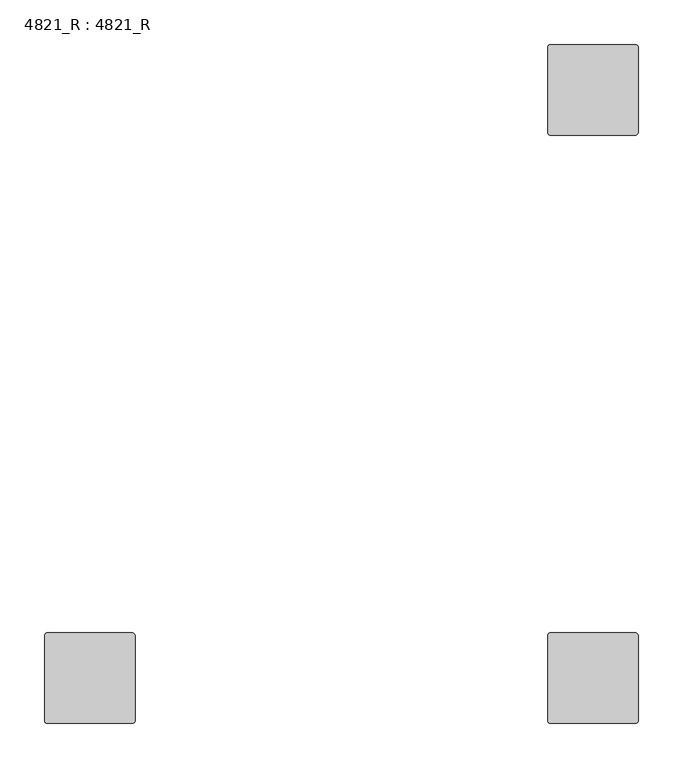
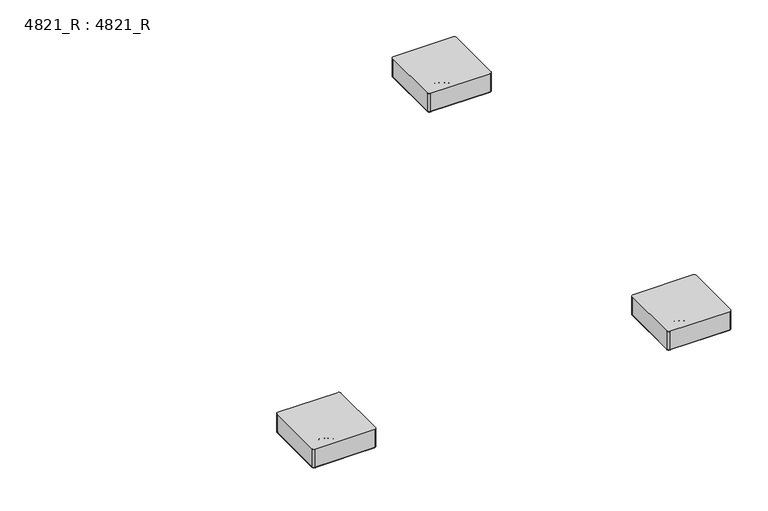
"""IFC4 building model written with IfcOpenShell, lengths in millimetres: furniture geometry, 4821_R : 4821_R."""

from ifc_helpers import new_model, si_unit, point, frame, frame_2d, origin, place, context, project, spatial, polyline, circle_curve, ellipse_curve, trimmed, segment, composite_curve, outline, extrude, source, transform, mapped, element, save
from ifc_brep_helpers import plane_surface, cylinder_surface, revolved_surface, advanced_brep


def furniture_4821_r_4821_r_739098f7(model_context):
    return source(origin(), model_context, "Body", "SolidModel", [
        advanced_brep(
        [(-625.475, -698.5, 41.5925), (-720.725, -698.5, 41.5925), (-723.9, -701.675, 41.5925), (-723.9, -796.925, 41.5925), (-720.725, -800.1, 41.5925), (-625.475, -800.1, 41.5925), (-622.3, -796.925, 41.5925), (-622.3, -701.675, 41.5925), (-722.63, -701.675, 11.1125), (-720.725, -699.77, 11.1125), (-625.475, -699.77, 11.1125), (-623.57, -701.675, 11.1125), (-623.57, -796.925, 11.1125), (-625.475, -798.83, 11.1125), (-720.725, -798.83, 11.1125), (-722.63, -796.925, 11.1125), (-625.475, -698.5, 11.1125), (-720.725, -698.5, 11.1125), (-723.9, -701.675, 11.1125), (-723.9, -796.925, 11.1125), (-720.725, -800.1, 11.1125), (-625.475, -800.1, 11.1125), (-622.3, -796.925, 11.1125), (-622.3, -701.675, 11.1125), (-720.725, -699.77, 9.8425), (-722.63, -701.675, 9.8425), (-625.475, -699.77, 9.8425), (-623.57, -701.675, 9.8425), (-623.57, -796.925, 9.8425), (-625.475, -798.83, 9.8425), (-720.725, -798.83, 9.8425), (-722.63, -796.925, 9.8425)],
        [
            (0, 1),
            (1, 2, circle_curve(frame((-720.725, -701.675, 41.5925), z_axis=(0.0, 0.0, 1.0), x_axis=(1.0, 0.0, 0.0)), 3.175)),
            (2, 3),
            (3, 4, circle_curve(frame((-720.725, -796.925, 41.5925), z_axis=(0.0, 0.0, 1.0), x_axis=(1.0, 0.0, 0.0)), 3.175)),
            (4, 5),
            (5, 6, circle_curve(frame((-625.475, -796.925, 41.5925), z_axis=(0.0, 0.0, 1.0), x_axis=(1.0, 0.0, 0.0)), 3.175)),
            (6, 7),
            (7, 0, circle_curve(frame((-625.475, -701.675, 41.5925), z_axis=(0.0, 0.0, 1.0), x_axis=(1.0, 0.0, 0.0)), 3.175)),
            (8, 9, circle_curve(frame((-720.725, -701.675, 11.1125), z_axis=(0.0, 0.0, -1.0), x_axis=(-1.0, 0.0, 0.0)), 1.905)),
            (9, 10),
            (10, 11, circle_curve(frame((-625.475, -701.675, 11.1125), z_axis=(0.0, 0.0, -1.0), x_axis=(0.0, 1.0, 0.0)), 1.905)),
            (11, 12),
            (12, 13, circle_curve(frame((-625.475, -796.925, 11.1125), z_axis=(0.0, 0.0, -1.0), x_axis=(1.0, 0.0, 0.0)), 1.905)),
            (13, 14),
            (14, 15, circle_curve(frame((-720.725, -796.925, 11.1125), z_axis=(0.0, 0.0, -1.0), x_axis=(0.0, -1.0, 0.0)), 1.905)),
            (15, 8),
            (0, 16),
            (16, 17),
            (17, 1),
            (17, 18, circle_curve(frame((-720.725, -701.675, 11.1125), z_axis=(0.0, 0.0, 1.0), x_axis=(1.0, 0.0, 0.0)), 3.175)),
            (18, 2),
            (18, 19),
            (19, 3),
            (19, 20, circle_curve(frame((-720.725, -796.925, 11.1125), z_axis=(0.0, 0.0, 1.0), x_axis=(1.0, 0.0, 0.0)), 3.175)),
            (20, 4),
            (20, 21),
            (21, 5),
            (21, 22, circle_curve(frame((-625.475, -796.925, 11.1125), z_axis=(0.0, 0.0, 1.0), x_axis=(1.0, 0.0, 0.0)), 3.175)),
            (22, 6),
            (22, 23),
            (23, 7),
            (23, 16, circle_curve(frame((-625.475, -701.675, 11.1125), z_axis=(0.0, 0.0, 1.0), x_axis=(1.0, 0.0, 0.0)), 3.175)),
            (24, 25, circle_curve(frame((-720.725, -701.675, 9.8425), z_axis=(0.0, 0.0, 1.0), x_axis=(-1.0, 0.0, 0.0)), 1.905)),
            (25, 18, circle_curve(frame((-722.63, -701.675, 11.1125), z_axis=(0.0, 1.0, 0.0), x_axis=(1.0, 0.0, 0.0)), 1.27)),
            (17, 24, circle_curve(frame((-720.725, -699.77, 11.1125), z_axis=(-1.0, 0.0, 0.0), x_axis=(0.0, -1.0, 0.0)), 1.27)),
            (16, 26, circle_curve(frame((-625.475, -699.77, 11.1125), z_axis=(-1.0, 0.0, 0.0), x_axis=(0.0, -1.0, 0.0)), 1.27)),
            (26, 24),
            (23, 27, circle_curve(frame((-623.57, -701.675, 11.1125), z_axis=(0.0, 1.0, 0.0), x_axis=(-1.0, 0.0, 0.0)), 1.27)),
            (27, 26, circle_curve(frame((-625.475, -701.675, 9.8425), z_axis=(0.0, 0.0, 1.0), x_axis=(0.0, 1.0, 0.0)), 1.905)),
            (22, 28, circle_curve(frame((-623.57, -796.925, 11.1125), z_axis=(0.0, 1.0, 0.0), x_axis=(-1.0, 0.0, 0.0)), 1.27)),
            (28, 27),
            (21, 29, circle_curve(frame((-625.475, -798.83, 11.1125), z_axis=(1.0, 0.0, 0.0), x_axis=(0.0, 1.0, 0.0)), 1.27)),
            (29, 28, circle_curve(frame((-625.475, -796.925, 9.8425), z_axis=(0.0, 0.0, 1.0), x_axis=(1.0, 0.0, 0.0)), 1.905)),
            (20, 30, circle_curve(frame((-720.725, -798.83, 11.1125), z_axis=(1.0, 0.0, 0.0), x_axis=(0.0, 1.0, 0.0)), 1.27)),
            (30, 29),
            (19, 31, circle_curve(frame((-722.63, -796.925, 11.1125), z_axis=(0.0, -1.0, 0.0), x_axis=(1.0, 0.0, 0.0)), 1.27)),
            (31, 30, circle_curve(frame((-720.725, -796.925, 9.8425), z_axis=(0.0, 0.0, 1.0), x_axis=(0.0, -1.0, 0.0)), 1.905)),
            (25, 31),
            (24, 9),
            (8, 25),
            (26, 10),
            (27, 11),
            (28, 12),
            (29, 13),
            (30, 14),
            (31, 15),
        ],
        [
            plane_surface(frame((-720.725, -698.5, 41.5925), z_axis=(0.0, 0.0, 1.0), x_axis=(-1.0, 0.0, 0.0))),
            plane_surface(frame((-720.725, -698.5, 11.1125), z_axis=(0.0, 0.0, -1.0), x_axis=(1.0, 0.0, 0.0))),
            plane_surface(frame((-625.475, -698.5, 41.5925), z_axis=(0.0, 1.0, 0.0), x_axis=(0.0, 0.0, -1.0))),
            cylinder_surface(frame((-720.725, -701.675, 11.1125), z_axis=(0.0, 0.0, 1.0), x_axis=(1.0, 0.0, 0.0)), 3.175),
            plane_surface(frame((-723.9, -701.675, 41.5925), z_axis=(-1.0, 0.0, 0.0), x_axis=(0.0, 0.0, -1.0))),
            cylinder_surface(frame((-720.725, -796.925, 11.1125), z_axis=(0.0, 0.0, 1.0), x_axis=(1.0, 0.0, 0.0)), 3.175),
            plane_surface(frame((-720.725, -800.1, 41.5925), z_axis=(0.0, -1.0, 0.0), x_axis=(0.0, 0.0, -1.0))),
            cylinder_surface(frame((-625.475, -796.925, 11.1125), z_axis=(0.0, 0.0, 1.0), x_axis=(1.0, 0.0, 0.0)), 3.175),
            plane_surface(frame((-622.3, -796.925, 41.5925), z_axis=(1.0, 0.0, 0.0), x_axis=(0.0, 0.0, -1.0))),
            cylinder_surface(frame((-625.475, -701.675, 11.1125), z_axis=(0.0, 0.0, 1.0), x_axis=(1.0, 0.0, 0.0)), 3.175),
            revolved_surface(trimmed(ellipse_curve(frame((-722.63, -701.675, 11.1125), z_axis=(0.0, -1.0, 0.0), x_axis=(1.0, 0.0, 0.0)), 1.27, 1.27), [point((-723.9, -701.675, 11.1125))], [point((-722.63, -701.675, 9.8425))], True, "CARTESIAN"), (-720.725, -701.675, 11.1125), (0.0, 0.0, -1.0)),
            cylinder_surface(frame((-720.725, -699.77, 11.1125), z_axis=(-1.0, 0.0, 0.0), x_axis=(0.0, -1.0, 0.0)), 1.27),
            revolved_surface(trimmed(ellipse_curve(frame((-625.475, -699.77, 11.1125), z_axis=(-1.0, 0.0, 0.0), x_axis=(0.0, -1.0, 0.0)), 1.27, 1.27), [point((-625.475, -698.5, 11.1125))], [point((-625.475, -699.77, 9.8425))], True, "CARTESIAN"), (-625.475, -701.675, 11.1125), (0.0, 0.0, -1.0)),
            cylinder_surface(frame((-623.57, -701.675, 11.1125), z_axis=(0.0, 1.0, 0.0), x_axis=(-1.0, 0.0, 0.0)), 1.27),
            revolved_surface(trimmed(ellipse_curve(frame((-623.57, -796.925, 11.1125), z_axis=(0.0, 1.0, 0.0), x_axis=(-1.0, 0.0, 0.0)), 1.27, 1.27), [point((-622.3, -796.925, 11.1125))], [point((-623.57, -796.925, 9.8425))], True, "CARTESIAN"), (-625.475, -796.925, 11.1125), (0.0, 0.0, -1.0)),
            cylinder_surface(frame((-625.475, -798.83, 11.1125), z_axis=(1.0, 0.0, 0.0), x_axis=(0.0, 1.0, 0.0)), 1.27),
            revolved_surface(trimmed(ellipse_curve(frame((-720.725, -798.83, 11.1125), z_axis=(1.0, 0.0, 0.0), x_axis=(0.0, 1.0, 0.0)), 1.27, 1.27), [point((-720.725, -800.1, 11.1125))], [point((-720.725, -798.83, 9.8425))], True, "CARTESIAN"), (-720.725, -796.925, 11.1125), (0.0, 0.0, -1.0)),
            cylinder_surface(frame((-722.63, -796.925, 11.1125), z_axis=(0.0, -1.0, 0.0), x_axis=(1.0, 0.0, 0.0)), 1.27),
            revolved_surface(polyline([(-722.63, -701.675, 9.8425), (-722.63, -701.675, 11.1125)]), (-720.725, -701.675, 11.1125), (0.0, 0.0, -1.0)),
            plane_surface(frame((-720.725, -699.77, 9.8425), z_axis=(0.0, -1.0, 0.0), x_axis=(1.0, 0.0, 0.0))),
            revolved_surface(polyline([(-625.475, -699.77, 9.8425), (-625.475, -699.77, 11.1125)]), (-625.475, -701.675, 11.1125), (0.0, 0.0, -1.0)),
            plane_surface(frame((-623.57, -701.675, 9.8425), z_axis=(-1.0, 0.0, 0.0), x_axis=(0.0, -1.0, 0.0))),
            revolved_surface(polyline([(-623.57, -796.925, 9.8425), (-623.57, -796.925, 11.1125)]), (-625.475, -796.925, 11.1125), (0.0, 0.0, -1.0)),
            plane_surface(frame((-625.475, -798.83, 9.8425), z_axis=(0.0, 1.0, 0.0), x_axis=(-1.0, 0.0, 0.0))),
            revolved_surface(polyline([(-720.725, -798.8299999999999, 9.8425), (-720.725, -798.8299999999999, 11.1125)]), (-720.725, -796.925, 11.1125), (0.0, 0.0, -1.0)),
            plane_surface(frame((-722.63, -796.925, 9.8425), z_axis=(1.0, 0.0, 0.0), x_axis=(0.0, 1.0, 0.0))),
        ],
        [
            (0, [[1, 2, 3, 4, 5, 6, 7, 8]]),
            (1, [[9, 10, 11, 12, 13, 14, 15, 16]]),
            (2, [[-1, 17, 18, 19]]),
            (3, [[-2, -19, 20, 21]]),
            (4, [[-3, -21, 22, 23]]),
            (5, [[-4, -23, 24, 25]]),
            (6, [[-5, -25, 26, 27]]),
            (7, [[-6, -27, 28, 29]]),
            (8, [[-7, -29, 30, 31]]),
            (9, [[-8, -31, 32, -17]]),
            (10, [[33, 34, -20, 35]]),
            (11, [[-35, -18, 36, 37]]),
            (12, [[-36, -32, 38, 39]]),
            (13, [[-38, -30, 40, 41]]),
            (14, [[-40, -28, 42, 43]]),
            (15, [[-42, -26, 44, 45]]),
            (16, [[-44, -24, 46, 47]]),
            (17, [[-34, 48, -46, -22]]),
            (18, [[-33, 49, -9, 50]]),
            (19, [[-37, 51, -10, -49]]),
            (20, [[-39, 52, -11, -51]]),
            (21, [[-41, 53, -12, -52]]),
            (22, [[-43, 54, -13, -53]]),
            (23, [[-45, 55, -14, -54]]),
            (24, [[-47, 56, -15, -55]]),
            (25, [[-48, -50, -16, -56]]),
        ],
    ),
        extrude(outline(composite_curve([segment(trimmed(circle_curve(frame_2d((-720.725, -796.925)), 1.905), [point((-720.725, -798.83))], [point((-722.63, -796.925))], False, "CARTESIAN"), True, "CONTINUOUS"), segment(polyline([(-722.63, -796.925), (-722.63, -701.675)]), True, "CONTINUOUS"), segment(trimmed(circle_curve(frame_2d((-720.725, -701.675)), 1.905), [point((-722.63, -701.675))], [point((-720.725, -699.77))], False, "CARTESIAN"), True, "CONTINUOUS"), segment(polyline([(-720.725, -699.77), (-625.475, -699.77)]), True, "CONTINUOUS"), segment(trimmed(circle_curve(frame_2d((-625.475, -701.675)), 1.905), [point((-625.475, -699.77))], [point((-623.57, -701.675))], False, "CARTESIAN"), True, "CONTINUOUS"), segment(polyline([(-623.57, -701.675), (-623.57, -796.925)]), True, "CONTINUOUS"), segment(trimmed(circle_curve(frame_2d((-625.475, -796.925)), 1.905), [point((-623.57, -796.925))], [point((-625.475, -798.83))], False, "CARTESIAN"), True, "CONTINUOUS"), segment(polyline([(-625.475, -798.83), (-720.725, -798.83)]), True, "CONTINUOUS")], self_intersect=False)), frame((0.0, 0.0, 9.8425), z_axis=(0.0, 0.0, 1.0), x_axis=(1.0, 0.0, 0.0)), (0.0, 0.0, 1.0), 1.27),
        advanced_brep(
        [(-683.2521334, -749.3, 0.0), (-662.9478666, -749.3, 0.0), (-673.1, -749.3, 0.0), (-683.5775, -749.3, 5.08), (-662.6225, -749.3, 5.08), (-683.5775, -749.3, 9.0481974), (-662.6225, -749.3, 9.0481974), (-682.7831974, -749.3, 9.8425), (-663.4168026, -749.3, 9.8425), (-673.1, -749.3, 9.8425)],
        [
            (0, 1, circle_curve(frame((-673.1, -749.3, 0.0), z_axis=(0.0, 0.0, -1.0), x_axis=(1.0, 0.0, 0.0)), 10.1521334)),
            (1, 2),
            (2, 0),
            (1, 0, circle_curve(frame((-673.1, -749.3, 0.0), z_axis=(0.0, 0.0, -1.0), x_axis=(1.0, 0.0, 0.0)), 10.1521334)),
            (3, 4, circle_curve(frame((-673.1, -749.3, 5.08), z_axis=(0.0, 0.0, -1.0), x_axis=(1.0, 0.0, 0.0)), 10.4775)),
            (4, 1, circle_curve(frame((-662.9478666, -749.3, 2.5504196), z_axis=(0.0, 1.0, 0.0), x_axis=(1.0, 0.0, 0.0)), 2.5504196)),
            (0, 3, circle_curve(frame((-683.2521334, -749.3, 2.5504196), z_axis=(0.0, 1.0, 0.0), x_axis=(-1.0, 0.0, 0.0)), 2.5504196)),
            (4, 3, circle_curve(frame((-673.1, -749.3, 5.08), z_axis=(0.0, 0.0, -1.0), x_axis=(1.0, 0.0, 0.0)), 10.4775)),
            (5, 6, circle_curve(frame((-673.1, -749.3, 9.0481974), z_axis=(0.0, 0.0, -1.0), x_axis=(1.0, 0.0, 0.0)), 10.4775)),
            (6, 4),
            (3, 5),
            (6, 5, circle_curve(frame((-673.1, -749.3, 9.0481974), z_axis=(0.0, 0.0, -1.0), x_axis=(1.0, 0.0, 0.0)), 10.4775)),
            (7, 8, circle_curve(frame((-673.1, -749.3, 9.8425), z_axis=(0.0, 0.0, -1.0), x_axis=(1.0, 0.0, 0.0)), 9.6831974)),
            (8, 6, circle_curve(frame((-663.4168026, -749.3, 9.0481974), z_axis=(0.0, 1.0, 0.0), x_axis=(1.0, 0.0, 0.0)), 0.7943026)),
            (5, 7, circle_curve(frame((-682.7831974, -749.3, 9.0481974), z_axis=(0.0, 1.0, 0.0), x_axis=(-1.0, 0.0, 0.0)), 0.7943026)),
            (8, 7, circle_curve(frame((-673.1, -749.3, 9.8425), z_axis=(0.0, 0.0, -1.0), x_axis=(1.0, 0.0, 0.0)), 9.6831974)),
            (9, 8),
            (7, 9),
        ],
        [
            plane_surface(frame((-673.1, -749.3, 0.0), z_axis=(0.0, 0.0, -1.0), x_axis=(1.0, 0.0, 0.0))),
            revolved_surface(trimmed(ellipse_curve(frame((-662.9478666, -749.3, 2.5504196), z_axis=(0.0, -1.0, 0.0), x_axis=(1.0, 0.0, 0.0)), 2.5504196, 2.5504196), [point((-662.9478666, -749.3, 0.0))], [point((-662.6225, -749.3, 5.08))], True, "CARTESIAN"), (-673.1, -749.3, 9.8425), (0.0, 0.0, 1.0)),
            cylinder_surface(frame((-673.1, -749.3, 9.8425), z_axis=(0.0, 0.0, 1.0), x_axis=(1.0, 0.0, 0.0)), 10.4775),
            revolved_surface(trimmed(ellipse_curve(frame((-663.4168026, -749.3, 9.0481974), z_axis=(0.0, -1.0, 0.0), x_axis=(1.0, 0.0, 0.0)), 0.7943026, 0.7943026), [point((-662.6225, -749.3, 9.0481974))], [point((-663.4168026, -749.3, 9.8425))], True, "CARTESIAN"), (-673.1, -749.3, 9.8425), (0.0, 0.0, 1.0)),
            plane_surface(frame((-673.1, -749.3, 9.8425), z_axis=(0.0, 0.0, 1.0), x_axis=(1.0, 0.0, 0.0))),
        ],
        [
            (0, [[1, 2, 3]]),
            (0, [[4, -3, -2]]),
            (1, [[5, 6, -1, 7]]),
            (1, [[8, -7, -4, -6]]),
            (2, [[9, 10, -5, 11]]),
            (2, [[12, -11, -8, -10]]),
            (3, [[13, 14, -9, 15]]),
            (3, [[16, -15, -12, -14]]),
            (4, [[17, -13, 18]]),
            (4, [[-18, -16, -17]]),
        ],
    ),
        advanced_brep(
        [(-60.325, -698.5, 41.5925), (-155.575, -698.5, 41.5925), (-158.75, -701.675, 41.5925), (-158.75, -796.925, 41.5925), (-155.575, -800.1, 41.5925), (-60.325, -800.1, 41.5925), (-57.15, -796.925, 41.5925), (-57.15, -701.675, 41.5925), (-157.48, -701.675, 11.1125), (-155.575, -699.77, 11.1125), (-60.325, -699.77, 11.1125), (-58.42, -701.675, 11.1125), (-58.42, -796.925, 11.1125), (-60.325, -798.83, 11.1125), (-155.575, -798.83, 11.1125), (-157.48, -796.925, 11.1125), (-60.325, -698.5, 11.1125), (-155.575, -698.5, 11.1125), (-158.75, -701.675, 11.1125), (-158.75, -796.925, 11.1125), (-155.575, -800.1, 11.1125), (-60.325, -800.1, 11.1125), (-57.15, -796.925, 11.1125), (-57.15, -701.675, 11.1125), (-155.575, -699.77, 9.8425), (-157.48, -701.675, 9.8425), (-60.325, -699.77, 9.8425), (-58.42, -701.675, 9.8425), (-58.42, -796.925, 9.8425), (-60.325, -798.83, 9.8425), (-155.575, -798.83, 9.8425), (-157.48, -796.925, 9.8425)],
        [
            (0, 1),
            (1, 2, circle_curve(frame((-155.575, -701.675, 41.5925), z_axis=(0.0, 0.0, 1.0), x_axis=(1.0, 0.0, 0.0)), 3.175)),
            (2, 3),
            (3, 4, circle_curve(frame((-155.575, -796.925, 41.5925), z_axis=(0.0, 0.0, 1.0), x_axis=(1.0, 0.0, 0.0)), 3.175)),
            (4, 5),
            (5, 6, circle_curve(frame((-60.325, -796.925, 41.5925), z_axis=(0.0, 0.0, 1.0), x_axis=(1.0, 0.0, 0.0)), 3.175)),
            (6, 7),
            (7, 0, circle_curve(frame((-60.325, -701.675, 41.5925), z_axis=(0.0, 0.0, 1.0), x_axis=(1.0, 0.0, 0.0)), 3.175)),
            (8, 9, circle_curve(frame((-155.575, -701.675, 11.1125), z_axis=(0.0, 0.0, -1.0), x_axis=(-1.0, 0.0, 0.0)), 1.905)),
            (9, 10),
            (10, 11, circle_curve(frame((-60.325, -701.675, 11.1125), z_axis=(0.0, 0.0, -1.0), x_axis=(0.0, 1.0, 0.0)), 1.905)),
            (11, 12),
            (12, 13, circle_curve(frame((-60.325, -796.925, 11.1125), z_axis=(0.0, 0.0, -1.0), x_axis=(1.0, 0.0, 0.0)), 1.905)),
            (13, 14),
            (14, 15, circle_curve(frame((-155.575, -796.925, 11.1125), z_axis=(0.0, 0.0, -1.0), x_axis=(0.0, -1.0, 0.0)), 1.905)),
            (15, 8),
            (0, 16),
            (16, 17),
            (17, 1),
            (17, 18, circle_curve(frame((-155.575, -701.675, 11.1125), z_axis=(0.0, 0.0, 1.0), x_axis=(1.0, 0.0, 0.0)), 3.175)),
            (18, 2),
            (18, 19),
            (19, 3),
            (19, 20, circle_curve(frame((-155.575, -796.925, 11.1125), z_axis=(0.0, 0.0, 1.0), x_axis=(1.0, 0.0, 0.0)), 3.175)),
            (20, 4),
            (20, 21),
            (21, 5),
            (21, 22, circle_curve(frame((-60.325, -796.925, 11.1125), z_axis=(0.0, 0.0, 1.0), x_axis=(1.0, 0.0, 0.0)), 3.175)),
            (22, 6),
            (22, 23),
            (23, 7),
            (23, 16, circle_curve(frame((-60.325, -701.675, 11.1125), z_axis=(0.0, 0.0, 1.0), x_axis=(1.0, 0.0, 0.0)), 3.175)),
            (24, 25, circle_curve(frame((-155.575, -701.675, 9.8425), z_axis=(0.0, 0.0, 1.0), x_axis=(-1.0, 0.0, 0.0)), 1.905)),
            (25, 18, circle_curve(frame((-157.48, -701.675, 11.1125), z_axis=(0.0, 1.0, 0.0), x_axis=(1.0, 0.0, 0.0)), 1.27)),
            (17, 24, circle_curve(frame((-155.575, -699.77, 11.1125), z_axis=(-1.0, 0.0, 0.0), x_axis=(0.0, -1.0, 0.0)), 1.27)),
            (16, 26, circle_curve(frame((-60.325, -699.77, 11.1125), z_axis=(-1.0, 0.0, 0.0), x_axis=(0.0, -1.0, 0.0)), 1.27)),
            (26, 24),
            (23, 27, circle_curve(frame((-58.42, -701.675, 11.1125), z_axis=(0.0, 1.0, 0.0), x_axis=(-1.0, 0.0, 0.0)), 1.27)),
            (27, 26, circle_curve(frame((-60.325, -701.675, 9.8425), z_axis=(0.0, 0.0, 1.0), x_axis=(0.0, 1.0, 0.0)), 1.905)),
            (22, 28, circle_curve(frame((-58.42, -796.925, 11.1125), z_axis=(0.0, 1.0, 0.0), x_axis=(-1.0, 0.0, 0.0)), 1.27)),
            (28, 27),
            (21, 29, circle_curve(frame((-60.325, -798.83, 11.1125), z_axis=(1.0, 0.0, 0.0), x_axis=(0.0, 1.0, 0.0)), 1.27)),
            (29, 28, circle_curve(frame((-60.325, -796.925, 9.8425), z_axis=(0.0, 0.0, 1.0), x_axis=(1.0, 0.0, 0.0)), 1.905)),
            (20, 30, circle_curve(frame((-155.575, -798.83, 11.1125), z_axis=(1.0, 0.0, 0.0), x_axis=(0.0, 1.0, 0.0)), 1.27)),
            (30, 29),
            (19, 31, circle_curve(frame((-157.48, -796.925, 11.1125), z_axis=(0.0, -1.0, 0.0), x_axis=(1.0, 0.0, 0.0)), 1.27)),
            (31, 30, circle_curve(frame((-155.575, -796.925, 9.8425), z_axis=(0.0, 0.0, 1.0), x_axis=(0.0, -1.0, 0.0)), 1.905)),
            (25, 31),
            (24, 9),
            (8, 25),
            (26, 10),
            (27, 11),
            (28, 12),
            (29, 13),
            (30, 14),
            (31, 15),
        ],
        [
            plane_surface(frame((-155.575, -698.5, 41.5925), z_axis=(0.0, 0.0, 1.0), x_axis=(-1.0, 0.0, 0.0))),
            plane_surface(frame((-155.575, -698.5, 11.1125), z_axis=(0.0, 0.0, -1.0), x_axis=(1.0, 0.0, 0.0))),
            plane_surface(frame((-60.325, -698.5, 41.5925), z_axis=(0.0, 1.0, 0.0), x_axis=(0.0, 0.0, -1.0))),
            cylinder_surface(frame((-155.575, -701.675, 11.1125), z_axis=(0.0, 0.0, 1.0), x_axis=(1.0, 0.0, 0.0)), 3.175),
            plane_surface(frame((-158.75, -701.675, 41.5925), z_axis=(-1.0, 0.0, 0.0), x_axis=(0.0, 0.0, -1.0))),
            cylinder_surface(frame((-155.575, -796.925, 11.1125), z_axis=(0.0, 0.0, 1.0), x_axis=(1.0, 0.0, 0.0)), 3.175),
            plane_surface(frame((-155.575, -800.1, 41.5925), z_axis=(0.0, -1.0, 0.0), x_axis=(0.0, 0.0, -1.0))),
            cylinder_surface(frame((-60.325, -796.925, 11.1125), z_axis=(0.0, 0.0, 1.0), x_axis=(1.0, 0.0, 0.0)), 3.175),
            plane_surface(frame((-57.15, -796.925, 41.5925), z_axis=(1.0, 0.0, 0.0), x_axis=(0.0, 0.0, -1.0))),
            cylinder_surface(frame((-60.325, -701.675, 11.1125), z_axis=(0.0, 0.0, 1.0), x_axis=(1.0, 0.0, 0.0)), 3.175),
            revolved_surface(trimmed(ellipse_curve(frame((-157.48, -701.675, 11.1125), z_axis=(0.0, -1.0, 0.0), x_axis=(1.0, 0.0, 0.0)), 1.27, 1.27), [point((-158.75, -701.675, 11.1125))], [point((-157.48, -701.675, 9.8425))], True, "CARTESIAN"), (-155.575, -701.675, 11.1125), (0.0, 0.0, -1.0)),
            cylinder_surface(frame((-155.575, -699.77, 11.1125), z_axis=(-1.0, 0.0, 0.0), x_axis=(0.0, -1.0, 0.0)), 1.27),
            revolved_surface(trimmed(ellipse_curve(frame((-60.325, -699.77, 11.1125), z_axis=(-1.0, 0.0, 0.0), x_axis=(0.0, -1.0, 0.0)), 1.27, 1.27), [point((-60.325, -698.5, 11.1125))], [point((-60.325, -699.77, 9.8425))], True, "CARTESIAN"), (-60.325, -701.675, 11.1125), (0.0, 0.0, -1.0)),
            cylinder_surface(frame((-58.42, -701.675, 11.1125), z_axis=(0.0, 1.0, 0.0), x_axis=(-1.0, 0.0, 0.0)), 1.27),
            revolved_surface(trimmed(ellipse_curve(frame((-58.42, -796.925, 11.1125), z_axis=(0.0, 1.0, 0.0), x_axis=(-1.0, 0.0, 0.0)), 1.27, 1.27), [point((-57.15, -796.925, 11.1125))], [point((-58.42, -796.925, 9.8425))], True, "CARTESIAN"), (-60.325, -796.925, 11.1125), (0.0, 0.0, -1.0)),
            cylinder_surface(frame((-60.325, -798.83, 11.1125), z_axis=(1.0, 0.0, 0.0), x_axis=(0.0, 1.0, 0.0)), 1.27),
            revolved_surface(trimmed(ellipse_curve(frame((-155.575, -798.83, 11.1125), z_axis=(1.0, 0.0, 0.0), x_axis=(0.0, 1.0, 0.0)), 1.27, 1.27), [point((-155.575, -800.1, 11.1125))], [point((-155.575, -798.83, 9.8425))], True, "CARTESIAN"), (-155.575, -796.925, 11.1125), (0.0, 0.0, -1.0)),
            cylinder_surface(frame((-157.48, -796.925, 11.1125), z_axis=(0.0, -1.0, 0.0), x_axis=(1.0, 0.0, 0.0)), 1.27),
            revolved_surface(polyline([(-157.48, -701.675, 9.8425), (-157.48, -701.675, 11.1125)]), (-155.575, -701.675, 11.1125), (0.0, 0.0, -1.0)),
            plane_surface(frame((-155.575, -699.77, 9.8425), z_axis=(0.0, -1.0, 0.0), x_axis=(1.0, 0.0, 0.0))),
            revolved_surface(polyline([(-60.325, -699.77, 9.8425), (-60.325, -699.77, 11.1125)]), (-60.325, -701.675, 11.1125), (0.0, 0.0, -1.0)),
            plane_surface(frame((-58.42, -701.675, 9.8425), z_axis=(-1.0, 0.0, 0.0), x_axis=(0.0, -1.0, 0.0))),
            revolved_surface(polyline([(-58.42, -796.925, 9.8425), (-58.42, -796.925, 11.1125)]), (-60.325, -796.925, 11.1125), (0.0, 0.0, -1.0)),
            plane_surface(frame((-60.325, -798.83, 9.8425), z_axis=(0.0, 1.0, 0.0), x_axis=(-1.0, 0.0, 0.0))),
            revolved_surface(polyline([(-155.575, -798.8299999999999, 9.8425), (-155.575, -798.8299999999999, 11.1125)]), (-155.575, -796.925, 11.1125), (0.0, 0.0, -1.0)),
            plane_surface(frame((-157.48, -796.925, 9.8425), z_axis=(1.0, 0.0, 0.0), x_axis=(0.0, 1.0, 0.0))),
        ],
        [
            (0, [[1, 2, 3, 4, 5, 6, 7, 8]]),
            (1, [[9, 10, 11, 12, 13, 14, 15, 16]]),
            (2, [[-1, 17, 18, 19]]),
            (3, [[-2, -19, 20, 21]]),
            (4, [[-3, -21, 22, 23]]),
            (5, [[-4, -23, 24, 25]]),
            (6, [[-5, -25, 26, 27]]),
            (7, [[-6, -27, 28, 29]]),
            (8, [[-7, -29, 30, 31]]),
            (9, [[-8, -31, 32, -17]]),
            (10, [[33, 34, -20, 35]]),
            (11, [[-35, -18, 36, 37]]),
            (12, [[-36, -32, 38, 39]]),
            (13, [[-38, -30, 40, 41]]),
            (14, [[-40, -28, 42, 43]]),
            (15, [[-42, -26, 44, 45]]),
            (16, [[-44, -24, 46, 47]]),
            (17, [[-34, 48, -46, -22]]),
            (18, [[-33, 49, -9, 50]]),
            (19, [[-37, 51, -10, -49]]),
            (20, [[-39, 52, -11, -51]]),
            (21, [[-41, 53, -12, -52]]),
            (22, [[-43, 54, -13, -53]]),
            (23, [[-45, 55, -14, -54]]),
            (24, [[-47, 56, -15, -55]]),
            (25, [[-48, -50, -16, -56]]),
        ],
    ),
        extrude(outline(composite_curve([segment(trimmed(circle_curve(frame_2d((-155.575, -796.925)), 1.905), [point((-155.575, -798.83))], [point((-157.48, -796.925))], False, "CARTESIAN"), True, "CONTINUOUS"), segment(polyline([(-157.48, -796.925), (-157.48, -701.675)]), True, "CONTINUOUS"), segment(trimmed(circle_curve(frame_2d((-155.575, -701.675)), 1.905), [point((-157.48, -701.675))], [point((-155.575, -699.77))], False, "CARTESIAN"), True, "CONTINUOUS"), segment(polyline([(-155.575, -699.77), (-60.325, -699.77)]), True, "CONTINUOUS"), segment(trimmed(circle_curve(frame_2d((-60.325, -701.675)), 1.905), [point((-60.325, -699.77))], [point((-58.42, -701.675))], False, "CARTESIAN"), True, "CONTINUOUS"), segment(polyline([(-58.42, -701.675), (-58.42, -796.925)]), True, "CONTINUOUS"), segment(trimmed(circle_curve(frame_2d((-60.325, -796.925)), 1.905), [point((-58.42, -796.925))], [point((-60.325, -798.83))], False, "CARTESIAN"), True, "CONTINUOUS"), segment(polyline([(-60.325, -798.83), (-155.575, -798.83)]), True, "CONTINUOUS")], self_intersect=False)), frame((0.0, 0.0, 9.8425), z_axis=(0.0, 0.0, 1.0), x_axis=(1.0, 0.0, 0.0)), (0.0, 0.0, 1.0), 1.27),
        advanced_brep(
        [(-118.1021334, -749.3, 0.0), (-97.7978666, -749.3, 0.0), (-107.95, -749.3, 0.0), (-118.4275, -749.3, 5.08), (-97.4725, -749.3, 5.08), (-118.4275, -749.3, 9.0481974), (-97.4725, -749.3, 9.0481974), (-117.6331974, -749.3, 9.8425), (-98.2668026, -749.3, 9.8425), (-107.95, -749.3, 9.8425)],
        [
            (0, 1, circle_curve(frame((-107.95, -749.3, 0.0), z_axis=(0.0, 0.0, -1.0), x_axis=(1.0, 0.0, 0.0)), 10.1521334)),
            (1, 2),
            (2, 0),
            (1, 0, circle_curve(frame((-107.95, -749.3, 0.0), z_axis=(0.0, 0.0, -1.0), x_axis=(1.0, 0.0, 0.0)), 10.1521334)),
            (3, 4, circle_curve(frame((-107.95, -749.3, 5.08), z_axis=(0.0, 0.0, -1.0), x_axis=(1.0, 0.0, 0.0)), 10.4775)),
            (4, 1, circle_curve(frame((-97.7978666, -749.3, 2.5504196), z_axis=(0.0, 1.0, 0.0), x_axis=(1.0, 0.0, 0.0)), 2.5504196)),
            (0, 3, circle_curve(frame((-118.1021334, -749.3, 2.5504196), z_axis=(0.0, 1.0, 0.0), x_axis=(-1.0, 0.0, 0.0)), 2.5504196)),
            (4, 3, circle_curve(frame((-107.95, -749.3, 5.08), z_axis=(0.0, 0.0, -1.0), x_axis=(1.0, 0.0, 0.0)), 10.4775)),
            (5, 6, circle_curve(frame((-107.95, -749.3, 9.0481974), z_axis=(0.0, 0.0, -1.0), x_axis=(1.0, 0.0, 0.0)), 10.4775)),
            (6, 4),
            (3, 5),
            (6, 5, circle_curve(frame((-107.95, -749.3, 9.0481974), z_axis=(0.0, 0.0, -1.0), x_axis=(1.0, 0.0, 0.0)), 10.4775)),
            (7, 8, circle_curve(frame((-107.95, -749.3, 9.8425), z_axis=(0.0, 0.0, -1.0), x_axis=(1.0, 0.0, 0.0)), 9.6831974)),
            (8, 6, circle_curve(frame((-98.2668026, -749.3, 9.0481974), z_axis=(0.0, 1.0, 0.0), x_axis=(1.0, 0.0, 0.0)), 0.7943026)),
            (5, 7, circle_curve(frame((-117.6331974, -749.3, 9.0481974), z_axis=(0.0, 1.0, 0.0), x_axis=(-1.0, 0.0, 0.0)), 0.7943026)),
            (8, 7, circle_curve(frame((-107.95, -749.3, 9.8425), z_axis=(0.0, 0.0, -1.0), x_axis=(1.0, 0.0, 0.0)), 9.6831974)),
            (9, 8),
            (7, 9),
        ],
        [
            plane_surface(frame((-107.95, -749.3, 0.0), z_axis=(0.0, 0.0, -1.0), x_axis=(1.0, 0.0, 0.0))),
            revolved_surface(trimmed(ellipse_curve(frame((-97.7978666, -749.3, 2.5504196), z_axis=(0.0, -1.0, 0.0), x_axis=(1.0, 0.0, 0.0)), 2.5504196, 2.5504196), [point((-97.7978666, -749.3, 0.0))], [point((-97.4725, -749.3, 5.08))], True, "CARTESIAN"), (-107.95, -749.3, 9.8425), (0.0, 0.0, 1.0)),
            cylinder_surface(frame((-107.95, -749.3, 9.8425), z_axis=(0.0, 0.0, 1.0), x_axis=(1.0, 0.0, 0.0)), 10.4775),
            revolved_surface(trimmed(ellipse_curve(frame((-98.2668026, -749.3, 9.0481974), z_axis=(0.0, -1.0, 0.0), x_axis=(1.0, 0.0, 0.0)), 0.7943026, 0.7943026), [point((-97.4725, -749.3, 9.0481974))], [point((-98.2668026, -749.3, 9.8425))], True, "CARTESIAN"), (-107.95, -749.3, 9.8425), (0.0, 0.0, 1.0)),
            plane_surface(frame((-107.95, -749.3, 9.8425), z_axis=(0.0, 0.0, 1.0), x_axis=(1.0, 0.0, 0.0))),
        ],
        [
            (0, [[1, 2, 3]]),
            (0, [[4, -3, -2]]),
            (1, [[5, 6, -1, 7]]),
            (1, [[8, -7, -4, -6]]),
            (2, [[9, 10, -5, 11]]),
            (2, [[12, -11, -8, -10]]),
            (3, [[13, 14, -9, 15]]),
            (3, [[16, -15, -12, -14]]),
            (4, [[17, -13, 18]]),
            (4, [[-18, -16, -17]]),
        ],
    ),
        advanced_brep(
        [(-60.325, -38.1, 41.5925), (-155.575, -38.1, 41.5925), (-158.75, -41.275, 41.5925), (-158.75, -136.525, 41.5925), (-155.575, -139.7, 41.5925), (-60.325, -139.7, 41.5925), (-57.15, -136.525, 41.5925), (-57.15, -41.275, 41.5925), (-157.48, -41.275, 11.1125), (-155.575, -39.37, 11.1125), (-60.325, -39.37, 11.1125), (-58.42, -41.275, 11.1125), (-58.42, -136.525, 11.1125), (-60.325, -138.43, 11.1125), (-155.575, -138.43, 11.1125), (-157.48, -136.525, 11.1125), (-60.325, -38.1, 11.1125), (-155.575, -38.1, 11.1125), (-158.75, -41.275, 11.1125), (-158.75, -136.525, 11.1125), (-155.575, -139.7, 11.1125), (-60.325, -139.7, 11.1125), (-57.15, -136.525, 11.1125), (-57.15, -41.275, 11.1125), (-155.575, -39.37, 9.8425), (-157.48, -41.275, 9.8425), (-60.325, -39.37, 9.8425), (-58.42, -41.275, 9.8425), (-58.42, -136.525, 9.8425), (-60.325, -138.43, 9.8425), (-155.575, -138.43, 9.8425), (-157.48, -136.525, 9.8425)],
        [
            (0, 1),
            (1, 2, circle_curve(frame((-155.575, -41.275, 41.5925), z_axis=(0.0, 0.0, 1.0), x_axis=(1.0, 0.0, 0.0)), 3.175)),
            (2, 3),
            (3, 4, circle_curve(frame((-155.575, -136.525, 41.5925), z_axis=(0.0, 0.0, 1.0), x_axis=(1.0, 0.0, 0.0)), 3.175)),
            (4, 5),
            (5, 6, circle_curve(frame((-60.325, -136.525, 41.5925), z_axis=(0.0, 0.0, 1.0), x_axis=(1.0, 0.0, 0.0)), 3.175)),
            (6, 7),
            (7, 0, circle_curve(frame((-60.325, -41.275, 41.5925), z_axis=(0.0, 0.0, 1.0), x_axis=(1.0, 0.0, 0.0)), 3.175)),
            (8, 9, circle_curve(frame((-155.575, -41.275, 11.1125), z_axis=(0.0, 0.0, -1.0), x_axis=(-1.0, 0.0, 0.0)), 1.905)),
            (9, 10),
            (10, 11, circle_curve(frame((-60.325, -41.275, 11.1125), z_axis=(0.0, 0.0, -1.0), x_axis=(0.0, 1.0, 0.0)), 1.905)),
            (11, 12),
            (12, 13, circle_curve(frame((-60.325, -136.525, 11.1125), z_axis=(0.0, 0.0, -1.0), x_axis=(1.0, 0.0, 0.0)), 1.905)),
            (13, 14),
            (14, 15, circle_curve(frame((-155.575, -136.525, 11.1125), z_axis=(0.0, 0.0, -1.0), x_axis=(0.0, -1.0, 0.0)), 1.905)),
            (15, 8),
            (0, 16),
            (16, 17),
            (17, 1),
            (17, 18, circle_curve(frame((-155.575, -41.275, 11.1125), z_axis=(0.0, 0.0, 1.0), x_axis=(1.0, 0.0, 0.0)), 3.175)),
            (18, 2),
            (18, 19),
            (19, 3),
            (19, 20, circle_curve(frame((-155.575, -136.525, 11.1125), z_axis=(0.0, 0.0, 1.0), x_axis=(1.0, 0.0, 0.0)), 3.175)),
            (20, 4),
            (20, 21),
            (21, 5),
            (21, 22, circle_curve(frame((-60.325, -136.525, 11.1125), z_axis=(0.0, 0.0, 1.0), x_axis=(1.0, 0.0, 0.0)), 3.175)),
            (22, 6),
            (22, 23),
            (23, 7),
            (23, 16, circle_curve(frame((-60.325, -41.275, 11.1125), z_axis=(0.0, 0.0, 1.0), x_axis=(1.0, 0.0, 0.0)), 3.175)),
            (24, 25, circle_curve(frame((-155.575, -41.275, 9.8425), z_axis=(0.0, 0.0, 1.0), x_axis=(-1.0, 0.0, 0.0)), 1.905)),
            (25, 18, circle_curve(frame((-157.48, -41.275, 11.1125), z_axis=(0.0, 1.0, 0.0), x_axis=(1.0, 0.0, 0.0)), 1.27)),
            (17, 24, circle_curve(frame((-155.575, -39.37, 11.1125), z_axis=(-1.0, 0.0, 0.0), x_axis=(0.0, -1.0, 0.0)), 1.27)),
            (16, 26, circle_curve(frame((-60.325, -39.37, 11.1125), z_axis=(-1.0, 0.0, 0.0), x_axis=(0.0, -1.0, 0.0)), 1.27)),
            (26, 24),
            (23, 27, circle_curve(frame((-58.42, -41.275, 11.1125), z_axis=(0.0, 1.0, 0.0), x_axis=(-1.0, 0.0, 0.0)), 1.27)),
            (27, 26, circle_curve(frame((-60.325, -41.275, 9.8425), z_axis=(0.0, 0.0, 1.0), x_axis=(0.0, 1.0, 0.0)), 1.905)),
            (22, 28, circle_curve(frame((-58.42, -136.525, 11.1125), z_axis=(0.0, 1.0, 0.0), x_axis=(-1.0, 0.0, 0.0)), 1.27)),
            (28, 27),
            (21, 29, circle_curve(frame((-60.325, -138.43, 11.1125), z_axis=(1.0, 0.0, 0.0), x_axis=(0.0, 1.0, 0.0)), 1.27)),
            (29, 28, circle_curve(frame((-60.325, -136.525, 9.8425), z_axis=(0.0, 0.0, 1.0), x_axis=(1.0, 0.0, 0.0)), 1.905)),
            (20, 30, circle_curve(frame((-155.575, -138.43, 11.1125), z_axis=(1.0, 0.0, 0.0), x_axis=(0.0, 1.0, 0.0)), 1.27)),
            (30, 29),
            (19, 31, circle_curve(frame((-157.48, -136.525, 11.1125), z_axis=(0.0, -1.0, 0.0), x_axis=(1.0, 0.0, 0.0)), 1.27)),
            (31, 30, circle_curve(frame((-155.575, -136.525, 9.8425), z_axis=(0.0, 0.0, 1.0), x_axis=(0.0, -1.0, 0.0)), 1.905)),
            (25, 31),
            (24, 9),
            (8, 25),
            (26, 10),
            (27, 11),
            (28, 12),
            (29, 13),
            (30, 14),
            (31, 15),
        ],
        [
            plane_surface(frame((-155.575, -38.1, 41.5925), z_axis=(0.0, 0.0, 1.0), x_axis=(-1.0, 0.0, 0.0))),
            plane_surface(frame((-155.575, -38.1, 11.1125), z_axis=(0.0, 0.0, -1.0), x_axis=(1.0, 0.0, 0.0))),
            plane_surface(frame((-60.325, -38.1, 41.5925), z_axis=(0.0, 1.0, 0.0), x_axis=(0.0, 0.0, -1.0))),
            cylinder_surface(frame((-155.575, -41.275, 11.1125), z_axis=(0.0, 0.0, 1.0), x_axis=(1.0, 0.0, 0.0)), 3.175),
            plane_surface(frame((-158.75, -41.275, 41.5925), z_axis=(-1.0, 0.0, 0.0), x_axis=(0.0, 0.0, -1.0))),
            cylinder_surface(frame((-155.575, -136.525, 11.1125), z_axis=(0.0, 0.0, 1.0), x_axis=(1.0, 0.0, 0.0)), 3.175),
            plane_surface(frame((-155.575, -139.7, 41.5925), z_axis=(0.0, -1.0, 0.0), x_axis=(0.0, 0.0, -1.0))),
            cylinder_surface(frame((-60.325, -136.525, 11.1125), z_axis=(0.0, 0.0, 1.0), x_axis=(1.0, 0.0, 0.0)), 3.175),
            plane_surface(frame((-57.15, -136.525, 41.5925), z_axis=(1.0, 0.0, 0.0), x_axis=(0.0, 0.0, -1.0))),
            cylinder_surface(frame((-60.325, -41.275, 11.1125), z_axis=(0.0, 0.0, 1.0), x_axis=(1.0, 0.0, 0.0)), 3.175),
            revolved_surface(trimmed(ellipse_curve(frame((-157.48, -41.275, 11.1125), z_axis=(0.0, -1.0, 0.0), x_axis=(1.0, 0.0, 0.0)), 1.27, 1.27), [point((-158.75, -41.275, 11.1125))], [point((-157.48, -41.275, 9.8425))], True, "CARTESIAN"), (-155.575, -41.275, 11.1125), (0.0, 0.0, -1.0)),
            cylinder_surface(frame((-155.575, -39.37, 11.1125), z_axis=(-1.0, 0.0, 0.0), x_axis=(0.0, -1.0, 0.0)), 1.27),
            revolved_surface(trimmed(ellipse_curve(frame((-60.325, -39.37, 11.1125), z_axis=(-1.0, 0.0, 0.0), x_axis=(0.0, -1.0, 0.0)), 1.27, 1.27), [point((-60.325, -38.1, 11.1125))], [point((-60.325, -39.37, 9.8425))], True, "CARTESIAN"), (-60.325, -41.275, 11.1125), (0.0, 0.0, -1.0)),
            cylinder_surface(frame((-58.42, -41.275, 11.1125), z_axis=(0.0, 1.0, 0.0), x_axis=(-1.0, 0.0, 0.0)), 1.27),
            revolved_surface(trimmed(ellipse_curve(frame((-58.42, -136.525, 11.1125), z_axis=(0.0, 1.0, 0.0), x_axis=(-1.0, 0.0, 0.0)), 1.27, 1.27), [point((-57.15, -136.525, 11.1125))], [point((-58.42, -136.525, 9.8425))], True, "CARTESIAN"), (-60.325, -136.525, 11.1125), (0.0, 0.0, -1.0)),
            cylinder_surface(frame((-60.325, -138.43, 11.1125), z_axis=(1.0, 0.0, 0.0), x_axis=(0.0, 1.0, 0.0)), 1.27),
            revolved_surface(trimmed(ellipse_curve(frame((-155.575, -138.43, 11.1125), z_axis=(1.0, 0.0, 0.0), x_axis=(0.0, 1.0, 0.0)), 1.27, 1.27), [point((-155.575, -139.7, 11.1125))], [point((-155.575, -138.43, 9.8425))], True, "CARTESIAN"), (-155.575, -136.525, 11.1125), (0.0, 0.0, -1.0)),
            cylinder_surface(frame((-157.48, -136.525, 11.1125), z_axis=(0.0, -1.0, 0.0), x_axis=(1.0, 0.0, 0.0)), 1.27),
            revolved_surface(polyline([(-157.48, -41.275, 9.8425), (-157.48, -41.275, 11.1125)]), (-155.575, -41.275, 11.1125), (0.0, 0.0, -1.0)),
            plane_surface(frame((-155.575, -39.37, 9.8425), z_axis=(0.0, -1.0, 0.0), x_axis=(1.0, 0.0, 0.0))),
            revolved_surface(polyline([(-60.325, -39.37, 9.8425), (-60.325, -39.37, 11.1125)]), (-60.325, -41.275, 11.1125), (0.0, 0.0, -1.0)),
            plane_surface(frame((-58.42, -41.275, 9.8425), z_axis=(-1.0, 0.0, 0.0), x_axis=(0.0, -1.0, 0.0))),
            revolved_surface(polyline([(-58.42, -136.525, 9.8425), (-58.42, -136.525, 11.1125)]), (-60.325, -136.525, 11.1125), (0.0, 0.0, -1.0)),
            plane_surface(frame((-60.325, -138.43, 9.8425), z_axis=(0.0, 1.0, 0.0), x_axis=(-1.0, 0.0, 0.0))),
            revolved_surface(polyline([(-155.575, -138.43, 9.8425), (-155.575, -138.43, 11.1125)]), (-155.575, -136.525, 11.1125), (0.0, 0.0, -1.0)),
            plane_surface(frame((-157.48, -136.525, 9.8425), z_axis=(1.0, 0.0, 0.0), x_axis=(0.0, 1.0, 0.0))),
        ],
        [
            (0, [[1, 2, 3, 4, 5, 6, 7, 8]]),
            (1, [[9, 10, 11, 12, 13, 14, 15, 16]]),
            (2, [[-1, 17, 18, 19]]),
            (3, [[-2, -19, 20, 21]]),
            (4, [[-3, -21, 22, 23]]),
            (5, [[-4, -23, 24, 25]]),
            (6, [[-5, -25, 26, 27]]),
            (7, [[-6, -27, 28, 29]]),
            (8, [[-7, -29, 30, 31]]),
            (9, [[-8, -31, 32, -17]]),
            (10, [[33, 34, -20, 35]]),
            (11, [[-35, -18, 36, 37]]),
            (12, [[-36, -32, 38, 39]]),
            (13, [[-38, -30, 40, 41]]),
            (14, [[-40, -28, 42, 43]]),
            (15, [[-42, -26, 44, 45]]),
            (16, [[-44, -24, 46, 47]]),
            (17, [[-34, 48, -46, -22]]),
            (18, [[-33, 49, -9, 50]]),
            (19, [[-37, 51, -10, -49]]),
            (20, [[-39, 52, -11, -51]]),
            (21, [[-41, 53, -12, -52]]),
            (22, [[-43, 54, -13, -53]]),
            (23, [[-45, 55, -14, -54]]),
            (24, [[-47, 56, -15, -55]]),
            (25, [[-48, -50, -16, -56]]),
        ],
    ),
        extrude(outline(composite_curve([segment(trimmed(circle_curve(frame_2d((-155.575, -136.525)), 1.905), [point((-155.575, -138.43))], [point((-157.48, -136.525))], False, "CARTESIAN"), True, "CONTINUOUS"), segment(polyline([(-157.48, -136.525), (-157.48, -41.275)]), True, "CONTINUOUS"), segment(trimmed(circle_curve(frame_2d((-155.575, -41.275)), 1.905), [point((-157.48, -41.275))], [point((-155.575, -39.37))], False, "CARTESIAN"), True, "CONTINUOUS"), segment(polyline([(-155.575, -39.37), (-60.325, -39.37)]), True, "CONTINUOUS"), segment(trimmed(circle_curve(frame_2d((-60.325, -41.275)), 1.905), [point((-60.325, -39.37))], [point((-58.42, -41.275))], False, "CARTESIAN"), True, "CONTINUOUS"), segment(polyline([(-58.42, -41.275), (-58.42, -136.525)]), True, "CONTINUOUS"), segment(trimmed(circle_curve(frame_2d((-60.325, -136.525)), 1.905), [point((-58.42, -136.525))], [point((-60.325, -138.43))], False, "CARTESIAN"), True, "CONTINUOUS"), segment(polyline([(-60.325, -138.43), (-155.575, -138.43)]), True, "CONTINUOUS")], self_intersect=False)), frame((0.0, 0.0, 9.8425), z_axis=(0.0, 0.0, 1.0), x_axis=(1.0, 0.0, 0.0)), (0.0, 0.0, 1.0), 1.27),
        advanced_brep(
        [(-118.1021334, -88.9, 0.0), (-97.7978666, -88.9, 0.0), (-107.95, -88.9, 0.0), (-118.4275, -88.9, 5.08), (-97.4725, -88.9, 5.08), (-118.4275, -88.9, 9.0481974), (-97.4725, -88.9, 9.0481974), (-117.6331974, -88.9, 9.8425), (-98.2668026, -88.9, 9.8425), (-107.95, -88.9, 9.8425)],
        [
            (0, 1, circle_curve(frame((-107.95, -88.9, 0.0), z_axis=(0.0, 0.0, -1.0), x_axis=(1.0, 0.0, 0.0)), 10.1521334)),
            (1, 2),
            (2, 0),
            (1, 0, circle_curve(frame((-107.95, -88.9, 0.0), z_axis=(0.0, 0.0, -1.0), x_axis=(1.0, 0.0, 0.0)), 10.1521334)),
            (3, 4, circle_curve(frame((-107.95, -88.9, 5.08), z_axis=(0.0, 0.0, -1.0), x_axis=(1.0, 0.0, 0.0)), 10.4775)),
            (4, 1, circle_curve(frame((-97.7978666, -88.9, 2.5504196), z_axis=(0.0, 1.0, 0.0), x_axis=(1.0, 0.0, 0.0)), 2.5504196)),
            (0, 3, circle_curve(frame((-118.1021334, -88.9, 2.5504196), z_axis=(0.0, 1.0, 0.0), x_axis=(-1.0, 0.0, 0.0)), 2.5504196)),
            (4, 3, circle_curve(frame((-107.95, -88.9, 5.08), z_axis=(0.0, 0.0, -1.0), x_axis=(1.0, 0.0, 0.0)), 10.4775)),
            (5, 6, circle_curve(frame((-107.95, -88.9, 9.0481974), z_axis=(0.0, 0.0, -1.0), x_axis=(1.0, 0.0, 0.0)), 10.4775)),
            (6, 4),
            (3, 5),
            (6, 5, circle_curve(frame((-107.95, -88.9, 9.0481974), z_axis=(0.0, 0.0, -1.0), x_axis=(1.0, 0.0, 0.0)), 10.4775)),
            (7, 8, circle_curve(frame((-107.95, -88.9, 9.8425), z_axis=(0.0, 0.0, -1.0), x_axis=(1.0, 0.0, 0.0)), 9.6831974)),
            (8, 6, circle_curve(frame((-98.2668026, -88.9, 9.0481974), z_axis=(0.0, 1.0, 0.0), x_axis=(1.0, 0.0, 0.0)), 0.7943026)),
            (5, 7, circle_curve(frame((-117.6331974, -88.9, 9.0481974), z_axis=(0.0, 1.0, 0.0), x_axis=(-1.0, 0.0, 0.0)), 0.7943026)),
            (8, 7, circle_curve(frame((-107.95, -88.9, 9.8425), z_axis=(0.0, 0.0, -1.0), x_axis=(1.0, 0.0, 0.0)), 9.6831974)),
            (9, 8),
            (7, 9),
        ],
        [
            plane_surface(frame((-107.95, -88.9, 0.0), z_axis=(0.0, 0.0, -1.0), x_axis=(1.0, 0.0, 0.0))),
            revolved_surface(trimmed(ellipse_curve(frame((-97.7978666, -88.9, 2.5504196), z_axis=(0.0, -1.0, 0.0), x_axis=(1.0, 0.0, 0.0)), 2.5504196, 2.5504196), [point((-97.7978666, -88.9, 0.0))], [point((-97.4725, -88.9, 5.08))], True, "CARTESIAN"), (-107.95, -88.9, 9.8425), (0.0, 0.0, 1.0)),
            cylinder_surface(frame((-107.95, -88.9, 9.8425), z_axis=(0.0, 0.0, 1.0), x_axis=(1.0, 0.0, 0.0)), 10.4775),
            revolved_surface(trimmed(ellipse_curve(frame((-98.2668026, -88.9, 9.0481974), z_axis=(0.0, -1.0, 0.0), x_axis=(1.0, 0.0, 0.0)), 0.7943026, 0.7943026), [point((-97.4725, -88.9, 9.0481974))], [point((-98.2668026, -88.9, 9.8425))], True, "CARTESIAN"), (-107.95, -88.9, 9.8425), (0.0, 0.0, 1.0)),
            plane_surface(frame((-107.95, -88.9, 9.8425), z_axis=(0.0, 0.0, 1.0), x_axis=(1.0, 0.0, 0.0))),
        ],
        [
            (0, [[1, 2, 3]]),
            (0, [[4, -3, -2]]),
            (1, [[5, 6, -1, 7]]),
            (1, [[8, -7, -4, -6]]),
            (2, [[9, 10, -5, 11]]),
            (2, [[12, -11, -8, -10]]),
            (3, [[13, 14, -9, 15]]),
            (3, [[16, -15, -12, -14]]),
            (4, [[17, -13, 18]]),
            (4, [[-18, -16, -17]]),
        ],
    ),
    ])


if __name__ == "__main__":
    model = new_model("IFC4")
    model_context = context("Model", 3, world=origin())
    ifc_project = project(units=[si_unit("LENGTHUNIT", "METRE", prefix="MILLI")], contexts=[model_context])
    site = spatial("IfcSite", under=ifc_project)
    building = spatial("IfcBuilding", under=site)
    placement = place(None, origin())
    furniture_4821_r_4821_r_shape = furniture_4821_r_4821_r_739098f7(model_context)
    element("IfcFurniture", 1, ObjectType="4821_R : 4821_R", at=placement, inside=building, context=model_context, shape_type="MappedRepresentation", body=[
        mapped(furniture_4821_r_4821_r_shape, transform((0.0, 0.0, 0.0), x_axis=(1.0, 0.0, 0.0), y_axis=(0.0, 1.0, 0.0), z_axis=(0.0, 0.0, 1.0))),
    ])
    save(model, "model.ifc")
